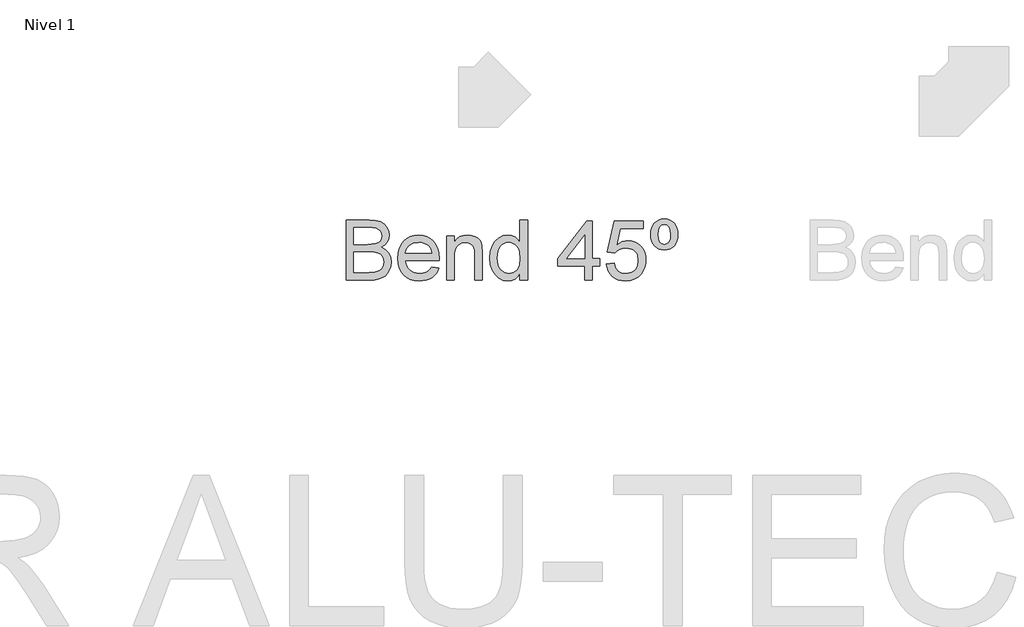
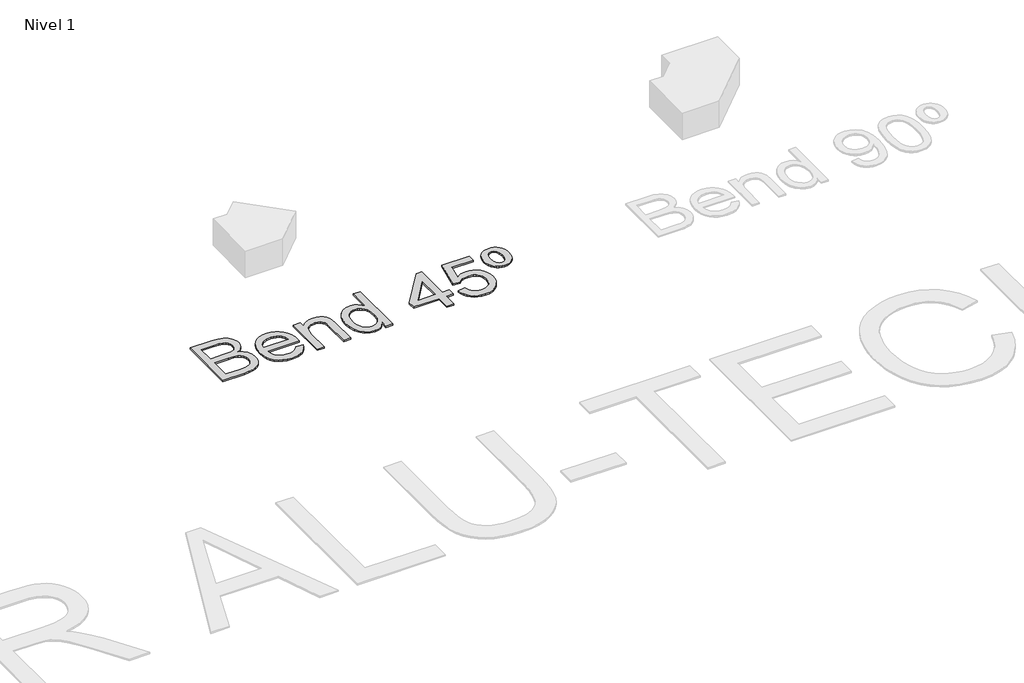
# One storey, part 2 of 6: 1 proxy.
"""IFC4 building model written with IfcOpenShell, lengths in millimetres."""

import ifcopenshell
import ifcopenshell.guid

model = None  # the IFC model being written
_history = None  # IfcOwnerHistory: only IFC2X3 demands one
_inside = {}  # id of a spatial element -> (the spatial element, [elements in it])
_under = {}  # id of a project, library or spatial element -> (it, [spatial elements below it])
_declared = {}  # id of a project -> (the project, [libraries it declares])
_typed = {}  # id of a type object -> (the type object, [elements of that type])
_made_of = {}  # id of a material, layer set ... -> (it, [elements and type objects made of it])


def new_model(schema):
    """Start an empty IFC model of exactly this schema.

    Asked for "IFC4X3", IfcOpenShell would pick the latest addendum, in which some entities
    have other attributes; the version numbers below select the first issue.
    IFC2X3 requires an IfcOwnerHistory on every rooted entity: one is made here for all.
    """
    global model, _history
    if schema == "IFC4X3":
        model = ifcopenshell.file(schema_version=(4, 3, 0, 0))
    else:
        model = ifcopenshell.file(schema=schema)
    _inside.clear()
    _under.clear()
    _declared.clear()
    _typed.clear()
    _made_of.clear()
    _history = None
    if model.schema == "IFC2X3":
        org = make("IfcOrganization", Name="unknown")
        user = make(
            "IfcPersonAndOrganization",
            ThePerson=make("IfcPerson", FamilyName="unknown"),
            TheOrganization=org,
        )
        app = make(
            "IfcApplication",
            ApplicationDeveloper=org,
            Version="unknown",
            ApplicationFullName="unknown",
            ApplicationIdentifier="unknown",
        )
        _history = make(
            "IfcOwnerHistory",
            OwningUser=user,
            OwningApplication=app,
            ChangeAction="ADDED",
            CreationDate=0,
        )
    return model


def make(cls, **values):
    """One entity of the class cls with the attributes given. An attribute that is None is left unset."""
    return model.create_entity(
        cls, **{name: value for name, value in values.items() if value is not None}
    )


def rooted(cls, **values):
    """An entity with a GlobalId (a new one), such as an element, a storey or a relation."""
    return make(cls, GlobalId=ifcopenshell.guid.new(), OwnerHistory=_history, **values)


def si_unit(unit_type, name, prefix=None):
    """IfcSIUnit, for example si_unit("LENGTHUNIT", "METRE", prefix="MILLI")."""
    return make("IfcSIUnit", UnitType=unit_type, Prefix=prefix, Name=name)


def assignment(units):
    """IfcUnitAssignment: the units of a project."""
    return None if units is None else make("IfcUnitAssignment", Units=units)


def point(xyz):
    """IfcCartesianPoint."""
    return None if xyz is None else make("IfcCartesianPoint", Coordinates=xyz)


def direction(xyz):
    """IfcDirection."""
    return None if xyz is None else make("IfcDirection", DirectionRatios=xyz)


def frame(location, z_axis=None, x_axis=None):
    """IfcAxis2Placement3D, a coordinate frame: its origin and axes. An axis left out is left unset."""
    return make(
        "IfcAxis2Placement3D",
        Location=point(location),
        Axis=direction(z_axis),
        RefDirection=direction(x_axis),
    )


def origin():
    """The frame at (0, 0, 0) with its axes left unset."""
    return frame((0.0, 0.0, 0.0))


def origin_with_axes():
    """The frame at (0, 0, 0) with the z axis (0, 0, 1) and the x axis (1, 0, 0) written out."""
    return frame((0.0, 0.0, 0.0), z_axis=(0.0, 0.0, 1.0), x_axis=(1.0, 0.0, 0.0))


def place(relative_to, where):
    """IfcLocalPlacement: puts the frame where relative to a parent placement (None: the world)."""
    return make(
        "IfcLocalPlacement", PlacementRelTo=relative_to, RelativePlacement=where
    )


def context(
    kind, dimensions, precision=None, world=None, true_north=None, identifier=None
):
    """IfcGeometricRepresentationContext, for example the 3D "Model" context."""
    return make(
        "IfcGeometricRepresentationContext",
        ContextIdentifier=identifier,
        ContextType=kind,
        CoordinateSpaceDimension=dimensions,
        Precision=precision,
        WorldCoordinateSystem=world,
        TrueNorth=true_north,
    )


def project(units=None, contexts=None):
    """IfcProject with its units and contexts."""
    return rooted(
        "IfcProject",
        Name="project",
        RepresentationContexts=contexts,
        UnitsInContext=assignment(units),
    )


def spatial(cls, under=None, at=None, **own):
    """A site, building, storey or space (cls), placed at a placement, below another one or the project."""
    s = rooted(cls, ObjectPlacement=at, **own)
    if under is not None:
        _under.setdefault(under.id(), (under, []))[1].append(s)
    return s


def polyline(points):
    """IfcPolyline through the points."""
    return make("IfcPolyline", Points=[point(p) for p in points])


def outline(outer, holes=None, kind="AREA"):
    """IfcArbitraryClosedProfileDef: a profile drawn as a closed curve; with holes, ...WithVoids."""
    if holes is None:
        return make("IfcArbitraryClosedProfileDef", ProfileType=kind, OuterCurve=outer)
    return make(
        "IfcArbitraryProfileDefWithVoids",
        ProfileType=kind,
        OuterCurve=outer,
        InnerCurves=holes,
    )


def extrude(swept, where, along, depth):
    """IfcExtrudedAreaSolid: the profile swept, set in the frame where, extruded along a direction by depth."""
    return make(
        "IfcExtrudedAreaSolid",
        SweptArea=swept,
        Position=where,
        ExtrudedDirection=direction(along),
        Depth=depth,
    )


def shape(context_of_items, identifier, shape_type, items):
    """IfcShapeRepresentation: the items that make up one representation, for example the "Body"."""
    return make(
        "IfcShapeRepresentation",
        ContextOfItems=context_of_items,
        RepresentationIdentifier=identifier,
        RepresentationType=shape_type,
        Items=items,
    )


def made_of(thing, what):
    """Note that an element or type object is made of a material, layer set ...; save() writes the relation."""
    if what is not None:
        _made_of.setdefault(what.id(), (what, []))[1].append(thing)
    return thing


def element(
    cls,
    number,
    at=None,
    inside=None,
    cuts=None,
    type_object=None,
    material=None,
    context=None,
    identifier="Body",
    shape_type=None,
    held_by="IfcProductDefinitionShape",
    body=None,
    shapes=None,
    **own,
):
    """One element of the class cls, such as IfcWall. Its Tag is "e" and its number.

    at: its placement. inside: the storey or other place that contains it. cuts: it is an
    opening in that element (IfcRelVoidsElement). A single representation is given by context,
    identifier, shape_type and body (its items); several are given by shapes. held_by: the class
    of the entity that holds the representations. save() writes the other relations.
    """
    e = rooted(cls, Tag="e%d" % number, ObjectPlacement=at, **own)
    if body is not None:
        shapes = [shape(context, identifier, shape_type, body)]
    if shapes is not None:
        e.Representation = make(held_by, Representations=shapes)
    if inside is not None:
        _inside.setdefault(inside.id(), (inside, []))[1].append(e)
    if cuts is not None:
        rooted(
            "IfcRelVoidsElement", RelatingBuildingElement=cuts, RelatedOpeningElement=e
        )
    if type_object is not None:
        _typed.setdefault(type_object.id(), (type_object, []))[1].append(e)
    return made_of(e, material)


def aggregate(whole, parts):
    """IfcRelAggregates: a whole, such as a stair, and the parts it consists of."""
    return rooted("IfcRelAggregates", RelatingObject=whole, RelatedObjects=parts)


def save(model, path):
    """Write the relations noted so far, then the file.

    IfcRelAggregates (storeys below a building ...), IfcRelContainedInSpatialStructure (elements
    in a storey), IfcRelDefinesByType, IfcRelAssociatesMaterial and IfcRelDeclares: one each for
    every whole, place, type object, material and project.
    """
    for whole, parts in _under.values():
        aggregate(whole, parts)
    for where, things in _inside.values():
        rooted(
            "IfcRelContainedInSpatialStructure",
            RelatedElements=things,
            RelatingStructure=where,
        )
    for kind, things in _typed.values():
        rooted("IfcRelDefinesByType", RelatedObjects=things, RelatingType=kind)
    for what, things in _made_of.values():
        rooted("IfcRelAssociatesMaterial", RelatedObjects=things, RelatingMaterial=what)
    for by, libraries in _declared.values():
        rooted("IfcRelDeclares", RelatingContext=by, RelatedDefinitions=libraries)
    model.write(path)


model = new_model("IFC4")

# Units and contexts
model_context = context("Model", 3, world=origin())
ifc_project = project(units=[si_unit("LENGTHUNIT", "METRE", prefix="MILLI")], contexts=[model_context])

# Site, building, storey
site = spatial("IfcSite", under=ifc_project)
building = spatial("IfcBuilding", under=site)
storey = spatial("IfcBuildingStorey", under=building, Name="Nivel 1", Elevation=0.0)

# Proxy
placement = place(None, origin())
element("IfcBuildingElementProxy", 1, Name="Texto de modelo 1", ObjectType="Texto de modelo 1", at=placement, inside=storey, context=model_context, shape_type="SweptSolid", body=[
    extrude(outline(polyline([(-11247.2257792, -1016.3248037), (-11247.2257792, -614.4995631), (-11093.8925636, -614.4995631), (-11051.7210242, -617.4548818), (-11018.7955857, -626.3208379), (-10993.5588808, -641.3181605), (-10974.4535425, -662.667579), (-10962.4238013, -687.7816565), (-10958.4138875, -714.0729565), (-10961.7861391, -738.267329), (-10971.902894, -761.014699), (-10988.8377285, -780.917115), (-11012.6642191, -796.5766252), (-10984.2024154, -811.4390578), (-10963.171828, -834.0515378), (-10950.1855936, -862.9180117), (-10945.8568488, -896.5424261), (-10948.8121674, -924.5627714), (-10957.6781235, -950.547503), (-10970.9096126, -972.6449481), (-10986.9615303, -989.0034342), (-11006.6186916, -1000.8492344), (-11030.6659114, -1009.4086222), (-11059.8880045, -1014.5957583), (-11095.069786, -1016.3248037), (-11247.2257792, -1016.3248037)]), holes=[polyline([(-11196.9976241, -777.7410671), (-11105.27238, -777.7410671), (-11051.7087615, -773.424585), (-11032.9590425, -765.981106), (-11019.4822987, -754.8342815), (-11011.3521066, -740.1557899), (-11008.6420426, -722.1173094), (-11011.1681656, -704.6061264), (-11018.7465347, -689.3512864), (-11031.0337934, -677.4441725), (-11047.686585, -669.976168), (-11073.2421209, -666.0398306), (-11112.2376124, -664.7277182), (-11196.9976241, -664.7277182), (-11196.9976241, -777.7410671)]), polyline([(-11196.9976241, -966.0966486), (-11093.9906655, -966.0966486), (-11056.7119566, -964.1346113), (-11025.1722069, -953.1962533), (-11013.5961868, -943.7662115), (-11004.2765096, -930.8780789), (-10998.1328803, -915.1082041), (-10996.0850038, -897.0329354), (-10998.4884995, -876.0391362), (-11005.6989866, -857.988393), (-11018.2928136, -843.8739871), (-11036.8463289, -834.6891999), (-11063.1253661, -829.6492166), (-11098.8957587, -827.9692222), (-11196.9976241, -827.9692222), (-11196.9976241, -966.0966486)])]), origin_with_axes(), (0.0, 0.0, 1.0), 10.0),
    extrude(outline(polyline([(-10676.4691264, -928.4255323), (-10627.22199, -934.7040517), (-10634.7727679, -954.428658), (-10644.9661649, -971.8110823), (-10657.8021808, -986.8513245), (-10673.2808158, -999.5493847), (-10691.2426542, -1009.6354827), (-10711.5282806, -1016.8398385), (-10759.0708971, -1022.6033231), (-10790.2366334, -1020.1170539), (-10818.0055927, -1012.6582465), (-10842.3777749, -1000.2269007), (-10863.35318, -982.8230167), (-10880.2205694, -960.9309723), (-10892.2687048, -935.0351455), (-10899.497586, -905.1355363), (-10901.9072131, -871.2321448), (-10899.4730605, -836.179122), (-10892.1706029, -805.2831658), (-10879.9998402, -778.5442761), (-10862.9607725, -755.962453), (-10842.0405497, -738.0220743), (-10818.2263219, -725.2075182), (-10791.518089, -717.5187845), (-10761.9158512, -714.9558732), (-10733.2670408, -717.5126531), (-10707.3589513, -725.1829927), (-10684.1915826, -737.966892), (-10663.7649348, -755.8643511), (-10647.0906834, -778.3971233), (-10635.1805038, -805.0869621), (-10628.0343961, -835.9338674), (-10625.6523601, -870.9378392), (-10625.9466657, -884.4758966), (-10851.679058, -884.4758966), (-10848.7697245, -904.519334), (-10842.9847802, -922.0734365), (-10834.3242249, -937.1382042), (-10822.7880586, -949.7136371), (-10809.0139436, -959.6280569), (-10793.6395419, -966.7097853), (-10758.0898784, -972.375168), (-10731.3571201, -969.7509431), (-10708.842742, -961.8782684), (-10690.5467441, -948.2666346), (-10676.4691264, -928.4255323)]), holes=[polyline([(-10851.679058, -834.2477415), (-10675.8805152, -834.2477415), (-10682.6740694, -807.711187), (-10695.9913976, -788.728476), (-10709.6888706, -778.4277801), (-10725.2748044, -771.0701402), (-10742.7491992, -766.6555563), (-10762.1120549, -765.1840283), (-10795.9694612, -769.8806551), (-10823.965281, -783.9705355), (-10843.4262386, -805.9330907), (-10851.679058, -834.2477415)])]), origin_with_axes(), (0.0, 0.0, 1.0), 10.0),
    extrude(outline(polyline([(-10575.4242051, -1016.3248037), (-10575.4242051, -721.2343926), (-10525.19605, -721.2343926), (-10525.19605, -762.4371761), (-10507.7461807, -741.6641061), (-10486.7891697, -726.826199), (-10462.325017, -717.9234547), (-10434.3537227, -714.9558732), (-10409.5952644, -717.3471062), (-10386.9214707, -724.5208051), (-10368.0123362, -735.5817904), (-10354.5478552, -749.6348827), (-10345.412119, -766.6432936), (-10339.4892188, -786.570235), (-10336.8404685, -835.1306583), (-10336.8404685, -1016.3248037), (-10387.0686235, -1016.3248037), (-10387.0686235, -841.899687), (-10388.5156261, -815.9272182), (-10392.8566336, -797.459542), (-10400.8641984, -784.2280529), (-10413.3108725, -773.9641453), (-10429.2646884, -767.3790576), (-10447.7936782, -765.1840283), (-10477.2119751, -770.1136471), (-10502.2892644, -784.9025033), (-10512.3109831, -796.9751641), (-10519.4693536, -813.4746716), (-10523.7643759, -834.4010257), (-10525.19605, -859.7542265), (-10525.19605, -1016.3248037), (-10575.4242051, -1016.3248037)])), origin_with_axes(), (0.0, 0.0, 1.0), 10.0),
    extrude(outline(polyline([(-10085.6996931, -1016.3248037), (-10085.6996931, -968.9416027), (-10100.7276726, -992.4186054), (-10118.9317, -1009.187893), (-10140.3117753, -1019.2494656), (-10164.8678985, -1022.6033231), (-10197.3396159, -1017.7472807), (-10227.0644811, -1003.1791537), (-10252.2276096, -979.9167489), (-10271.0141168, -948.9778731), (-10282.7127642, -911.6133251), (-10286.6123134, -869.0739038), (-10283.0193326, -827.0617799), (-10272.2403901, -789.1208835), (-10254.2877488, -757.4094555), (-10229.1736712, -734.085737), (-10198.7988811, -719.7383392), (-10165.0641022, -714.9558732), (-10140.4895849, -718.3771758), (-10118.7600217, -728.6410835), (-10100.3413965, -744.3741701), (-10085.6996931, -764.2030097), (-10085.6996931, -614.4995631), (-10035.471538, -614.4995631), (-10035.471538, -1016.3248037), (-10085.6996931, -1016.3248037)]), holes=[polyline([(-10236.3841583, -868.8777), (-10234.9678126, -893.2345538), (-10230.7187756, -914.3111264), (-10223.6370472, -932.1074179), (-10213.7226274, -946.6234283), (-10189.0254828, -965.9372331), (-10175.1502002, -970.7656843), (-10160.2571108, -972.375168), (-10145.2935106, -970.8392607), (-10131.5010015, -966.2315387), (-10107.4292563, -947.8006507), (-10097.9225724, -933.8916456), (-10091.1320839, -916.7391476), (-10085.6996931, -872.7036728), (-10091.2301858, -824.5601823), (-10098.1433016, -806.0250612), (-10107.8216637, -791.1810226), (-10119.5233769, -779.8073376), (-10132.5065456, -771.6832769), (-10146.77117, -766.8088405), (-10162.31725, -765.1840283), (-10177.504645, -766.7444611), (-10191.3799276, -771.4257595), (-10203.9430977, -779.2279235), (-10215.1941554, -790.1509531), (-10224.4647817, -804.4339715), (-10231.0866576, -822.3161022), (-10236.3841583, -868.8777)])]), origin_with_axes(), (0.0, 0.0, 1.0), 10.0),
    extrude(outline(polyline([(-9652.4818556, -1016.3248037), (-9652.4818556, -922.1470129), (-9834.5589177, -922.1470129), (-9834.5589177, -871.9188579), (-9639.9248168, -620.7780825), (-9602.2537005, -620.7780825), (-9602.2537005, -871.9188579), (-9552.0255454, -871.9188579), (-9552.0255454, -922.1470129), (-9602.2537005, -922.1470129), (-9602.2537005, -1016.3248037), (-9652.4818556, -1016.3248037)]), holes=[polyline([(-9652.4818556, -871.9188579), (-9652.4818556, -716.7217068), (-9772.7547425, -871.9188579), (-9652.4818556, -871.9188579)])]), origin_with_axes(), (0.0, 0.0, 1.0), 10.0),
    extrude(outline(polyline([(-9508.0759097, -909.5899742), (-9457.8477547, -903.3114548), (-9448.6261793, -933.4655156), (-9432.5374734, -955.0601888), (-9409.6552133, -968.0464232), (-9380.0529754, -972.375168), (-9360.9231117, -970.8699175), (-9344.0495908, -966.354166), (-9329.4324129, -958.8279135), (-9317.0715778, -948.2911601), (-9307.2429972, -935.2650717), (-9300.2225825, -920.2708148), (-9294.6062507, -884.3777948), (-9299.8669632, -850.5817021), (-9306.4428539, -836.6635), (-9315.6491008, -824.7318606), (-9327.5163608, -815.1607974), (-9342.0752908, -808.3243236), (-9379.2681605, -802.8551446), (-9403.6342113, -805.0379111), (-9423.364949, -811.5862106), (-9439.1225611, -821.6171264), (-9451.5692353, -834.2477415), (-9501.7973903, -827.9692222), (-9457.8477547, -620.7780825), (-9263.2136537, -620.7780825), (-9263.2136537, -671.0062376), (-9417.2335824, -671.0062376), (-9438.7178909, -781.6651417), (-9420.9921101, -768.9609501), (-9402.8371336, -759.8865276), (-9384.2529615, -754.4418741), (-9365.2395937, -752.6269896), (-9340.7785067, -754.8772011), (-9318.3101139, -761.6278357), (-9297.8344152, -772.8788934), (-9279.3514106, -788.6303741), (-9264.0505853, -807.9196534), (-9253.1214243, -829.7841067), (-9246.5639278, -854.2237339), (-9244.3780956, -881.2385351), (-9246.3462643, -907.2600549), (-9252.2507703, -931.4666901), (-9262.0916137, -953.8584409), (-9275.8687944, -974.4353072), (-9296.7399662, -995.5088141), (-9321.0937543, -1010.5613191), (-9348.9301586, -1019.5928221), (-9380.2491791, -1022.6033231), (-9406.1695314, -1020.6688769), (-9429.5821547, -1014.8655384), (-9450.4870491, -1005.1933077), (-9468.8842145, -991.6521846), (-9484.1911712, -974.9166195), (-9495.8254393, -955.6610627), (-9503.7870188, -933.8855143), (-9508.0759097, -909.5899742)])), origin_with_axes(), (0.0, 0.0, 1.0), 10.0),
    extrude(outline(polyline([(-9121.9469676, -608.2210437), (-9102.7619215, -609.9439577), (-9085.4285482, -615.1126998), (-9069.9468476, -623.7272698), (-9056.3168197, -635.7876679), (-9045.200652, -650.8830924), (-9037.2605323, -668.6027419), (-9032.4964605, -688.9466162), (-9030.9084365, -711.9147154), (-9032.5056575, -734.7969755), (-9037.2973205, -755.0795362), (-9045.2834255, -772.7623974), (-9056.4639725, -787.8455592), (-9070.1215915, -799.9059573), (-9085.5389128, -808.5205274), (-9102.7159363, -813.6892694), (-9121.652662, -815.4121834), (-9140.8469051, -813.7229919), (-9158.2078696, -808.6554174), (-9173.7355555, -800.2094599), (-9187.4299627, -788.3851195), (-9198.6105097, -773.5441467), (-9206.5966147, -756.0482921), (-9211.3882777, -735.8975558), (-9212.9854987, -713.0919378), (-9211.3974747, -689.6088038), (-9206.6334029, -668.8970474), (-9198.6932832, -650.9566688), (-9187.5771155, -635.7876679), (-9173.9470876, -623.7272698), (-9158.465387, -615.1126998), (-9141.1320136, -609.9439577), (-9121.9469676, -608.2210437)]), holes=[polyline([(-9121.9469676, -645.89216), (-9138.5139201, -649.754921), (-9151.52468, -661.3432038), (-9159.9491777, -681.6870781), (-9162.7573436, -711.8166136), (-9159.9001268, -741.394326), (-9151.3284763, -761.8485649), (-9138.2686654, -773.7679415), (-9121.9469676, -777.7410671), (-9105.5026424, -773.7679415), (-9092.467357, -761.8485649), (-9083.969283, -741.0509694), (-9081.1365916, -710.4431874), (-9083.9938084, -681.7116036), (-9092.5654589, -661.6375094), (-9105.6252697, -649.8284974), (-9121.9469676, -645.89216)])]), origin_with_axes(), (0.0, 0.0, 1.0), 10.0),
])

save(model, "model.ifc")
